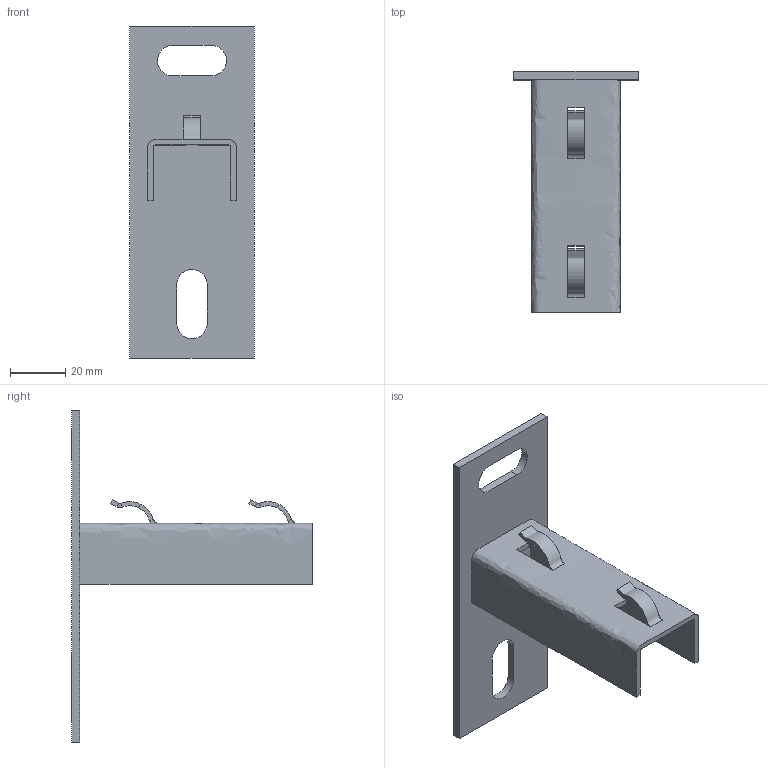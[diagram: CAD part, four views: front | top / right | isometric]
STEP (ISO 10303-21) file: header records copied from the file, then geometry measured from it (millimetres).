
FILE_DESCRIPTION(/* description */ (''),/* implementation_level */ '2;1');
FILE_NAME(/* name */ 'NPZM050',/* time_stamp */ '2013-11-22T10:22:25+01:00',/* author */ (''),/* organization */ (''),/* preprocessor_version */ 'ST-DEVELOPER v10',/* originating_system */ '',/* authorisation */ '');
FILE_SCHEMA (('AUTOMOTIVE_DESIGN_CC2'));
Length unit declared in the file: millimetre
Products named in the file (1): 1
Bounding box: 45 x 87 x 120 mm (x, y, z)
Volume: 25600.6 mm3; surface area: 24145.8 mm2
Topology: 4 solids, 4 shells, 52 faces, 132 edges, 88 vertices
Faces by surface type: bspline 42, plane 10
Entity records: 2406 total; most frequent: CARTESIAN_POINT 1584, ORIENTED_EDGE 264, EDGE_CURVE 132, VERTEX_POINT 88, EDGE_LOOP 60, B_SPLINE_CURVE_WITH_KNOTS 60, ADVANCED_FACE 52, FACE_OUTER_BOUND 52
